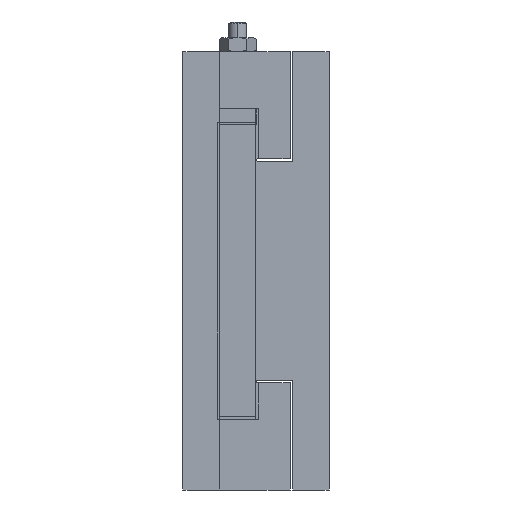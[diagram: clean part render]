
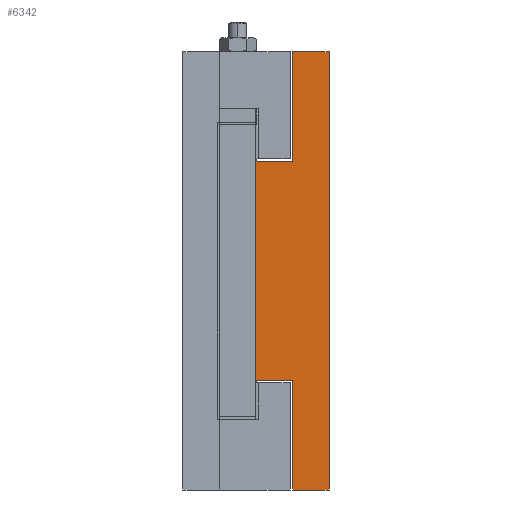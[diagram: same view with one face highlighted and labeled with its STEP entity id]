
A CAD part, left-side view. The second image highlights one B-rep face of the part: STEP entity #6342.
In plain terms, the highlighted planar face has unit normal (-1, 0, 0).
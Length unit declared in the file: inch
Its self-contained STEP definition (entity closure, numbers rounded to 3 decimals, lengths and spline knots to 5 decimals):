
#746 = EDGE_CURVE ( 'NONE', #748, #6216, #2920, .T. ) ;
#747 = VERTEX_POINT ( 'NONE', #2917 ) ;
#748 = VERTEX_POINT ( 'NONE', #2916 ) ;
#750 = ORIENTED_EDGE ( 'NONE', *, *, #754, .T. ) ;
#751 = ORIENTED_EDGE ( 'NONE', *, *, #6218, .T. ) ;
#754 = EDGE_CURVE ( 'NONE', #6224, #6216, #2954, .T. ) ;
#756 = EDGE_LOOP ( 'NONE', ( #751, #750, #6239, #6231, #6234, #6225, #6254, #6230 ) ) ;
#2913 = DIRECTION ( 'NONE',  ( 0., 1., 0. ) ) ;
#2916 = CARTESIAN_POINT ( 'NONE',  ( 0., 0., -3. ) ) ;
#2917 = CARTESIAN_POINT ( 'NONE',  ( 0., 0.5, 3. ) ) ;
#2918 = VECTOR ( 'NONE', #2913, 39.37008 ) ;
#2919 = CARTESIAN_POINT ( 'NONE',  ( 0., 1., -3. ) ) ;
#2920 = LINE ( 'NONE', #2919, #2918 ) ;
#2951 = DIRECTION ( 'NONE',  ( 0., 0., -1. ) ) ;
#2952 = VECTOR ( 'NONE', #2951, 39.37008 ) ;
#2953 = CARTESIAN_POINT ( 'NONE',  ( 0., 0.5, -3. ) ) ;
#2954 = LINE ( 'NONE', #2953, #2952 ) ;
#4658 = LINE ( 'NONE', #4704, #4703 ) ;
#4702 = DIRECTION ( 'NONE',  ( 0., 0., 1. ) ) ;
#4703 = VECTOR ( 'NONE', #4702, 39.37008 ) ;
#4704 = CARTESIAN_POINT ( 'NONE',  ( 0., 1., 3. ) ) ;
#4705 = CARTESIAN_POINT ( 'NONE',  ( 0., 1., 1.5 ) ) ;
#4707 = CARTESIAN_POINT ( 'NONE',  ( 0., 1., -1.5 ) ) ;
#4891 = CARTESIAN_POINT ( 'NONE',  ( 0., 0.5, -3. ) ) ;
#4895 = CARTESIAN_POINT ( 'NONE',  ( 0., 0.5, 1.5 ) ) ;
#4896 = CARTESIAN_POINT ( 'NONE',  ( 0., 0., 3. ) ) ;
#4933 = CARTESIAN_POINT ( 'NONE',  ( 0., 1., 1.5 ) ) ;
#4934 = LINE ( 'NONE', #4933, #4972 ) ;
#4935 = DIRECTION ( 'NONE',  ( 0., -1., 0. ) ) ;
#4936 = VECTOR ( 'NONE', #4935, 39.37008 ) ;
#4942 = CARTESIAN_POINT ( 'NONE',  ( 0., 1., -1.5 ) ) ;
#4950 = LINE ( 'NONE', #4942, #4936 ) ;
#4954 = DIRECTION ( 'NONE',  ( 0., -1., 0. ) ) ;
#4955 = VECTOR ( 'NONE', #4954, 39.37008 ) ;
#4962 = CARTESIAN_POINT ( 'NONE',  ( 0., 1., 3. ) ) ;
#4963 = LINE ( 'NONE', #4962, #4955 ) ;
#4970 = CARTESIAN_POINT ( 'NONE',  ( 0., 0.5, -1.5 ) ) ;
#4971 = DIRECTION ( 'NONE',  ( 0., 1., 0. ) ) ;
#4972 = VECTOR ( 'NONE', #4971, 39.37008 ) ;
#4996 = DIRECTION ( 'NONE',  ( 0., 0., -1. ) ) ;
#4997 = VECTOR ( 'NONE', #4996, 39.37008 ) ;
#4998 = CARTESIAN_POINT ( 'NONE',  ( 0., 0., 3. ) ) ;
#4999 = LINE ( 'NONE', #4998, #4997 ) ;
#5003 = DIRECTION ( 'NONE',  ( 0., 0., -1. ) ) ;
#5004 = VECTOR ( 'NONE', #5003, 39.37008 ) ;
#5005 = CARTESIAN_POINT ( 'NONE',  ( 0., 0.5, 3. ) ) ;
#5006 = LINE ( 'NONE', #5005, #5004 ) ;
#5146 = PLANE ( 'NONE',  #5200 ) ;
#5161 = FACE_OUTER_BOUND ( 'NONE', #756, .T. ) ;
#5197 = DIRECTION ( 'NONE',  ( 0., 0., -1. ) ) ;
#5198 = DIRECTION ( 'NONE',  ( 1., 0., 0. ) ) ;
#5199 = CARTESIAN_POINT ( 'NONE',  ( 0., 0., 3. ) ) ;
#5200 = AXIS2_PLACEMENT_3D ( 'NONE', #5199, #5198, #5197 ) ;
#6098 = VERTEX_POINT ( 'NONE', #4707 ) ;
#6100 = EDGE_CURVE ( 'NONE', #6098, #6102, #4658, .T. ) ;
#6102 = VERTEX_POINT ( 'NONE', #4705 ) ;
#6209 = VERTEX_POINT ( 'NONE', #4896 ) ;
#6211 = VERTEX_POINT ( 'NONE', #4895 ) ;
#6216 = VERTEX_POINT ( 'NONE', #4891 ) ;
#6218 = EDGE_CURVE ( 'NONE', #6098, #6224, #4950, .T. ) ;
#6221 = EDGE_CURVE ( 'NONE', #6211, #6102, #4934, .T. ) ;
#6224 = VERTEX_POINT ( 'NONE', #4970 ) ;
#6225 = ORIENTED_EDGE ( 'NONE', *, *, #6238, .T. ) ;
#6230 = ORIENTED_EDGE ( 'NONE', *, *, #6100, .F. ) ;
#6231 = ORIENTED_EDGE ( 'NONE', *, *, #6240, .F. ) ;
#6232 = EDGE_CURVE ( 'NONE', #747, #6209, #4963, .T. ) ;
#6234 = ORIENTED_EDGE ( 'NONE', *, *, #6232, .F. ) ;
#6238 = EDGE_CURVE ( 'NONE', #747, #6211, #5006, .T. ) ;
#6239 = ORIENTED_EDGE ( 'NONE', *, *, #746, .F. ) ;
#6240 = EDGE_CURVE ( 'NONE', #6209, #748, #4999, .T. ) ;
#6254 = ORIENTED_EDGE ( 'NONE', *, *, #6221, .T. ) ;
#6342 = ADVANCED_FACE ( 'NONE', ( #5161 ), #5146, .F. ) ;
